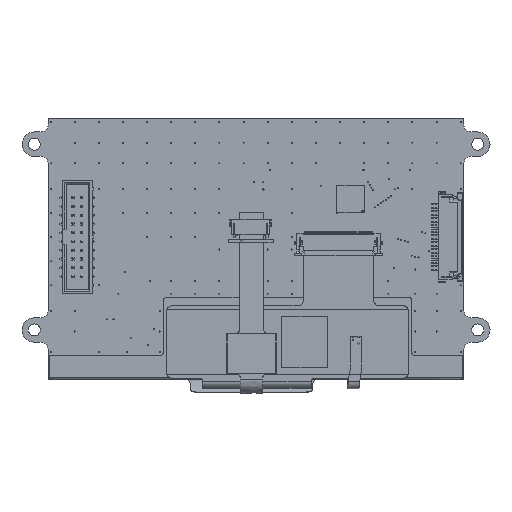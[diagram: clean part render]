
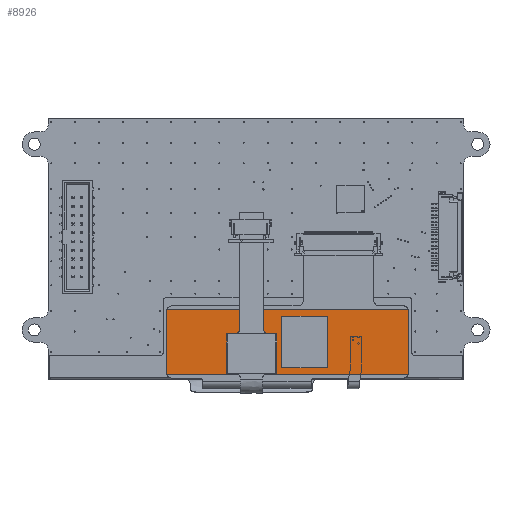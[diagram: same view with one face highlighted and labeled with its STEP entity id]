
A CAD part, top view. The second image highlights one B-rep face of the part: STEP entity #8926.
In plain terms, the highlighted planar face has unit normal (0, -0.018, 1).
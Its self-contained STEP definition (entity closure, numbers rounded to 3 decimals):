
#1724 = CARTESIAN_POINT ( 'NONE',  ( 67.869, -21.333, 105.805 ) ) ;
#3198 = LINE ( 'NONE', #75133, #146977 ) ;
#8418 = DIRECTION ( 'NONE',  ( 0., 1., 0.017 ) ) ;
#8906 = VECTOR ( 'NONE', #103766, 1000. ) ;
#8926 = ADVANCED_FACE ( 'NONE', ( #30331, #59831 ), #118857, .T. ) ;
#11787 = DIRECTION ( 'NONE',  ( -1., 0., 0. ) ) ;
#18304 = CARTESIAN_POINT ( 'NONE',  ( 47.129, -21.333, 105.805 ) ) ;
#19886 = VERTEX_POINT ( 'NONE', #42888 ) ;
#22943 = EDGE_LOOP ( 'NONE', ( #32576, #58143, #71854, #115387 ) ) ;
#23168 = LINE ( 'NONE', #108051, #83319 ) ;
#28346 = CARTESIAN_POINT ( 'NONE',  ( 91.329, 43.747, 106.941 ) ) ;
#29567 = CARTESIAN_POINT ( 'NONE',  ( 67.869, 41.748, 106.906 ) ) ;
#30331 = FACE_BOUND ( 'NONE', #152558, .T. ) ;
#31286 = EDGE_CURVE ( 'NONE', #87692, #148905, #42182, .T. ) ;
#32576 = ORIENTED_EDGE ( 'NONE', *, *, #88537, .T. ) ;
#33558 = EDGE_CURVE ( 'NONE', #103353, #148905, #23168, .T. ) ;
#38640 = CARTESIAN_POINT ( 'NONE',  ( 21.219, 43.747, 106.941 ) ) ;
#39012 = CARTESIAN_POINT ( 'NONE',  ( 67.869, 26.75, 106.644 ) ) ;
#39468 = LINE ( 'NONE', #122556, #68071 ) ;
#42182 = LINE ( 'NONE', #28346, #106990 ) ;
#42888 = CARTESIAN_POINT ( 'NONE',  ( 54.579, 41.748, 106.906 ) ) ;
#47078 = ORIENTED_EDGE ( 'NONE', *, *, #100689, .T. ) ;
#49488 = VERTEX_POINT ( 'NONE', #176959 ) ;
#50216 = LINE ( 'NONE', #175767, #137403 ) ;
#58143 = ORIENTED_EDGE ( 'NONE', *, *, #147609, .F. ) ;
#58497 = VERTEX_POINT ( 'NONE', #39012 ) ;
#59831 = FACE_OUTER_BOUND ( 'NONE', #22943, .T. ) ;
#62420 = CARTESIAN_POINT ( 'NONE',  ( 21.269, 24.75, 106.61 ) ) ;
#67869 = VECTOR ( 'NONE', #114292, 1000. ) ;
#68071 = VECTOR ( 'NONE', #11787, 1000. ) ;
#68965 = DIRECTION ( 'NONE',  ( 1., 0., 0. ) ) ;
#71854 = ORIENTED_EDGE ( 'NONE', *, *, #33558, .T. ) ;
#75133 = CARTESIAN_POINT ( 'NONE',  ( 54.579, -21.333, 105.805 ) ) ;
#75668 = EDGE_CURVE ( 'NONE', #58497, #49488, #39468, .T. ) ;
#83319 = VECTOR ( 'NONE', #8418, 1000. ) ;
#86637 = DIRECTION ( 'NONE',  ( 0., -0.017, 1. ) ) ;
#87692 = VERTEX_POINT ( 'NONE', #38640 ) ;
#88537 = EDGE_CURVE ( 'NONE', #87692, #120301, #50216, .T. ) ;
#90117 = LINE ( 'NONE', #62420, #99808 ) ;
#99808 = VECTOR ( 'NONE', #178652, 1000. ) ;
#100689 = EDGE_CURVE ( 'NONE', #19886, #113526, #143505, .T. ) ;
#103353 = VERTEX_POINT ( 'NONE', #176292 ) ;
#103766 = DIRECTION ( 'NONE',  ( 1., 0., 0. ) ) ;
#106990 = VECTOR ( 'NONE', #68965, 1000. ) ;
#108051 = CARTESIAN_POINT ( 'NONE',  ( 91.379, -21.333, 105.805 ) ) ;
#113526 = VERTEX_POINT ( 'NONE', #29567 ) ;
#114292 = DIRECTION ( 'NONE',  ( 0., -1., -0.017 ) ) ;
#114869 = DIRECTION ( 'NONE',  ( 0., 1., 0.017 ) ) ;
#115387 = ORIENTED_EDGE ( 'NONE', *, *, #31286, .F. ) ;
#118857 = PLANE ( 'NONE',  #148992 ) ;
#118915 = CARTESIAN_POINT ( 'NONE',  ( 21.219, 24.75, 106.61 ) ) ;
#120301 = VERTEX_POINT ( 'NONE', #118915 ) ;
#122556 = CARTESIAN_POINT ( 'NONE',  ( 47.129, 26.75, 106.644 ) ) ;
#126354 = ORIENTED_EDGE ( 'NONE', *, *, #177428, .T. ) ;
#128169 = LINE ( 'NONE', #1724, #67869 ) ;
#134433 = ORIENTED_EDGE ( 'NONE', *, *, #75668, .T. ) ;
#136954 = DIRECTION ( 'NONE',  ( 0., -1., -0.017 ) ) ;
#137403 = VECTOR ( 'NONE', #136954, 1000. ) ;
#143505 = LINE ( 'NONE', #174820, #8906 ) ;
#146977 = VECTOR ( 'NONE', #114869, 1000. ) ;
#147609 = EDGE_CURVE ( 'NONE', #103353, #120301, #90117, .T. ) ;
#147845 = EDGE_CURVE ( 'NONE', #49488, #19886, #3198, .T. ) ;
#148356 = ORIENTED_EDGE ( 'NONE', *, *, #147845, .T. ) ;
#148905 = VERTEX_POINT ( 'NONE', #171167 ) ;
#148992 = AXIS2_PLACEMENT_3D ( 'NONE', #18304, #86637, #158593 ) ;
#152558 = EDGE_LOOP ( 'NONE', ( #47078, #126354, #134433, #148356 ) ) ;
#158593 = DIRECTION ( 'NONE',  ( -1., 0., 0. ) ) ;
#171167 = CARTESIAN_POINT ( 'NONE',  ( 91.379, 43.747, 106.941 ) ) ;
#174820 = CARTESIAN_POINT ( 'NONE',  ( 47.129, 41.748, 106.906 ) ) ;
#175767 = CARTESIAN_POINT ( 'NONE',  ( 21.219, -21.333, 105.805 ) ) ;
#176292 = CARTESIAN_POINT ( 'NONE',  ( 91.379, 24.75, 106.61 ) ) ;
#176959 = CARTESIAN_POINT ( 'NONE',  ( 54.579, 26.75, 106.644 ) ) ;
#177428 = EDGE_CURVE ( 'NONE', #113526, #58497, #128169, .T. ) ;
#178652 = DIRECTION ( 'NONE',  ( -1., 0., 0. ) ) ;
